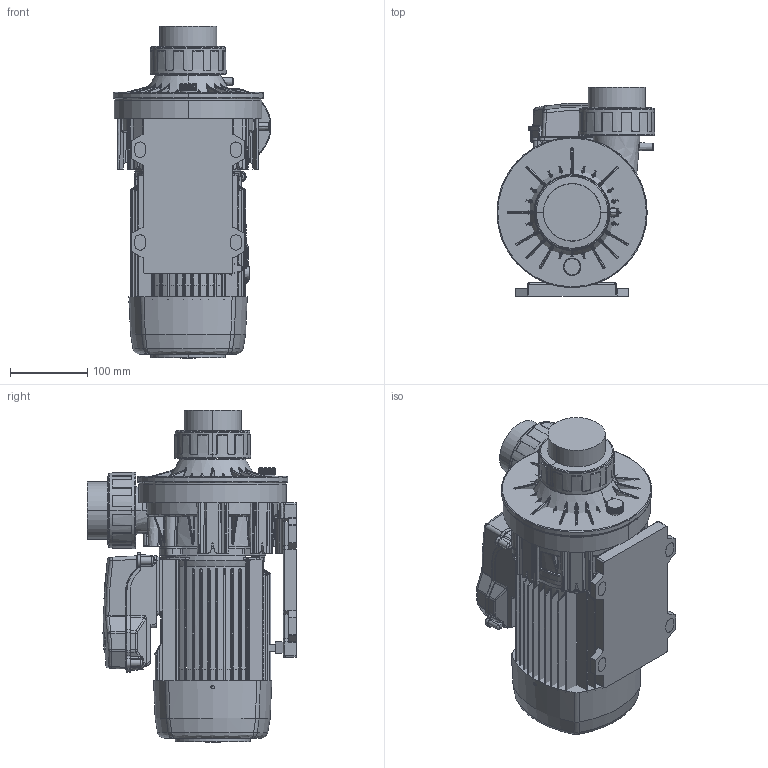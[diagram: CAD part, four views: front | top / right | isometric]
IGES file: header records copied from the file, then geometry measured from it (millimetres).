
Start section:  PTC IGES file: wiper3.igs
Global section: file name: wiper3.igs; native system: Pro/ENGINEER by Parametric Technology Corporation; preprocessor: 2008150; author: usuari; organization: Unknown; date: 20151120.091030; units: millimetre
Bounding box: 204.32 x 270.5 x 429.5 mm (x, y, z)
Surface area: 821357.6 mm2 (no closed solid volume)
Topology: 0 solids, 0 shells, 3337 faces, 17754 edges, 17706 vertices
Faces by surface type: bspline 1881, revolution 1455, extrusion 1
